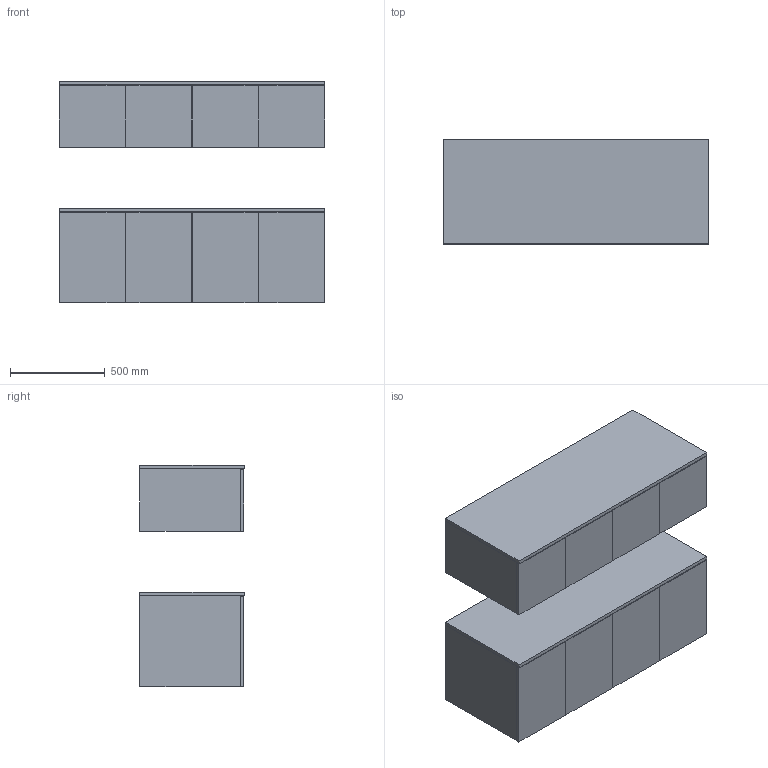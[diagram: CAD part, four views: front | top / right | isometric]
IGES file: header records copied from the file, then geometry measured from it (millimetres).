
Global section: file name: \\Archi-NAS\Comune\X GIOVANNI\MOBILI\BOXLINE\BOXLINE_6.igs; native system: Rhinoceros ( Feb 23 2021 ); preprocessor: Trout Lake IGES 012 Feb 23 2021; date: 230607.152752; units: millimetre
Bounding box: 1400 x 550 x 1171.3 mm (x, y, z)
Surface area: 14008460 mm2 (no closed solid volume)
Topology: 0 solids, 0 shells, 136 faces, 552 edges, 552 vertices
Faces by surface type: bspline 136
